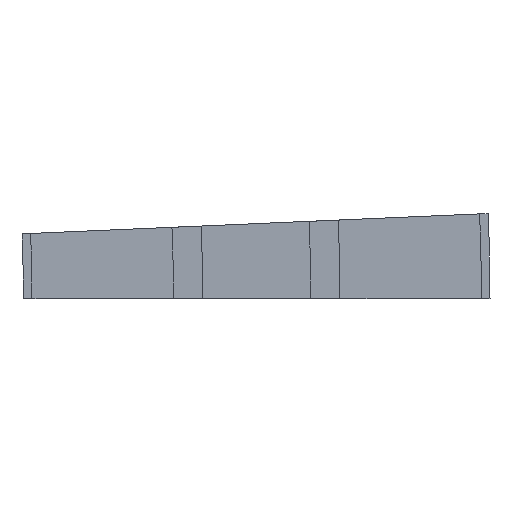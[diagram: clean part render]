
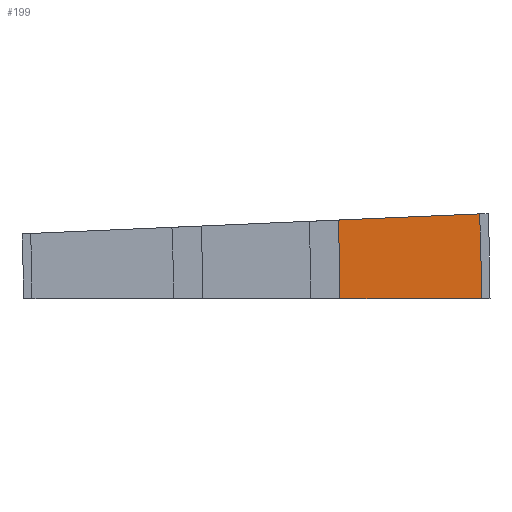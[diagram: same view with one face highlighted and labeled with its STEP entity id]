
A CAD part, left-side view. The second image highlights one B-rep face of the part: STEP entity #199.
In plain terms, the highlighted planar face has unit normal (-1, 0, 0).
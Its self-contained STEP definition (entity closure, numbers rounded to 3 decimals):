
#10 = EDGE_CURVE ( 'NONE', #344, #337, #290, .T. ) ;
#11 = EDGE_CURVE ( 'NONE', #342, #344, #291, .T. ) ;
#14 = EDGE_CURVE ( 'NONE', #330, #337, #230, .T. ) ;
#15 = EDGE_CURVE ( 'NONE', #342, #330, #257, .T. ) ;
#87 = DIRECTION ( 'NONE',  ( 0., -1., 0. ) ) ;
#88 = CARTESIAN_POINT ( 'NONE',  ( -325.25, 500., 0. ) ) ;
#89 = DIRECTION ( 'NONE',  ( 1., 0., 0. ) ) ;
#90 = DIRECTION ( 'NONE',  ( 0., 0., -1. ) ) ;
#186 = CARTESIAN_POINT ( 'NONE',  ( -325.25, 500., 0. ) ) ;
#199 = ADVANCED_FACE ( 'NONE', ( #1001 ), #779, .F. ) ;
#222 = DIRECTION ( 'NONE',  ( 1., 0., 0. ) ) ;
#224 = CARTESIAN_POINT ( 'NONE',  ( -325.25, -24.25, 0. ) ) ;
#230 = LINE ( 'NONE', #224, #258 ) ;
#257 = CIRCLE ( 'NONE', #905, 524.25 ) ;
#258 = VECTOR ( 'NONE', #87, 1000. ) ;
#290 = CIRCLE ( 'NONE', #902, 565.5 ) ;
#291 = LINE ( 'NONE', #415, #403 ) ;
#330 = VERTEX_POINT ( 'NONE', #448 ) ;
#337 = VERTEX_POINT ( 'NONE', #454 ) ;
#342 = VERTEX_POINT ( 'NONE', #459 ) ;
#344 = VERTEX_POINT ( 'NONE', #461 ) ;
#348 = EDGE_LOOP ( 'NONE', ( #705, #704, #703, #702 ) ) ;
#403 = VECTOR ( 'NONE', #416, 1000. ) ;
#414 = DIRECTION ( 'NONE',  ( 0., 0., -1. ) ) ;
#415 = CARTESIAN_POINT ( 'NONE',  ( -325.25, -23.751, 22.867 ) ) ;
#416 = DIRECTION ( 'NONE',  ( 0., -0.999, 0.044 ) ) ;
#448 = CARTESIAN_POINT ( 'NONE',  ( -325.25, -24.25, 0. ) ) ;
#454 = CARTESIAN_POINT ( 'NONE',  ( -325.25, -65.5, 0. ) ) ;
#459 = CARTESIAN_POINT ( 'NONE',  ( -325.25, -23.751, 22.867 ) ) ;
#461 = CARTESIAN_POINT ( 'NONE',  ( -325.25, -64.962, 24.667 ) ) ;
#702 = ORIENTED_EDGE ( 'NONE', *, *, #14, .T. ) ;
#703 = ORIENTED_EDGE ( 'NONE', *, *, #15, .T. ) ;
#704 = ORIENTED_EDGE ( 'NONE', *, *, #11, .F. ) ;
#705 = ORIENTED_EDGE ( 'NONE', *, *, #10, .F. ) ;
#779 = PLANE ( 'NONE',  #895 ) ;
#780 = CARTESIAN_POINT ( 'NONE',  ( -325.25, -23.751, 22.867 ) ) ;
#781 = DIRECTION ( 'NONE',  ( 1., 0., 0. ) ) ;
#782 = DIRECTION ( 'NONE',  ( 0., 0., -1. ) ) ;
#895 = AXIS2_PLACEMENT_3D ( 'NONE', #780, #781, #782 ) ;
#902 = AXIS2_PLACEMENT_3D ( 'NONE', #186, #222, #414 ) ;
#905 = AXIS2_PLACEMENT_3D ( 'NONE', #88, #89, #90 ) ;
#1001 = FACE_OUTER_BOUND ( 'NONE', #348, .T. ) ;
